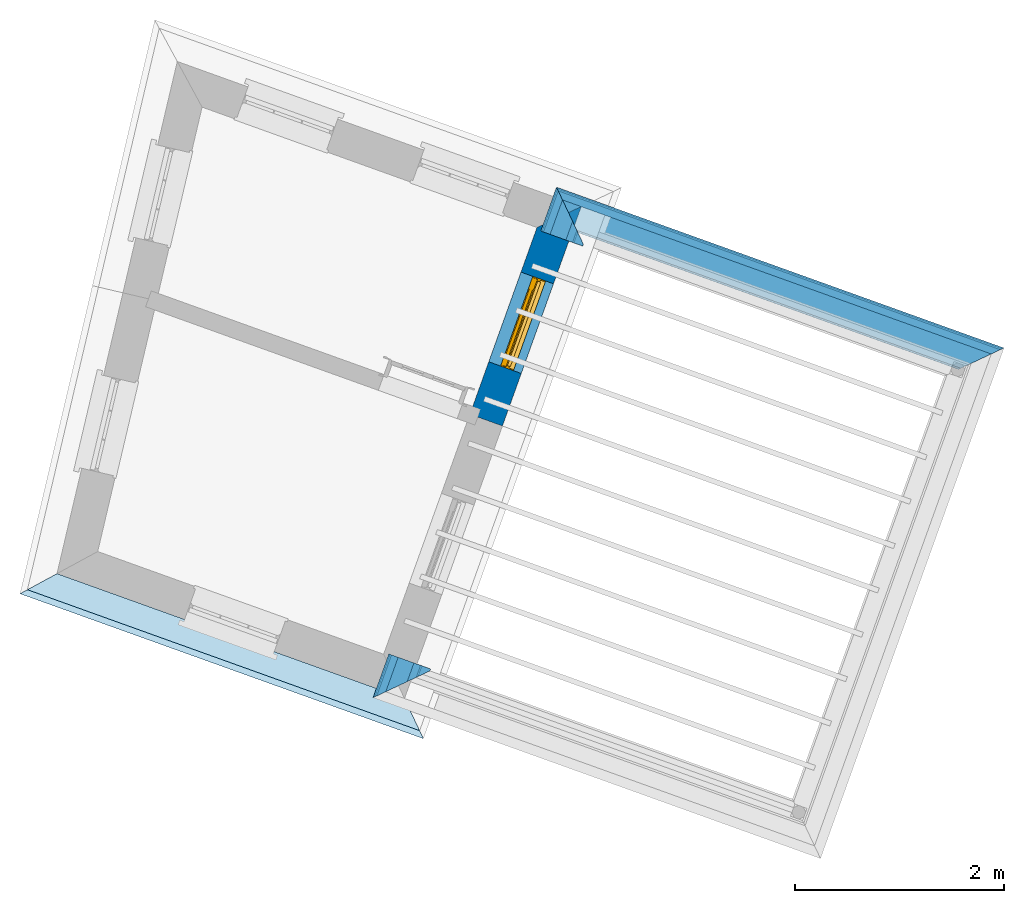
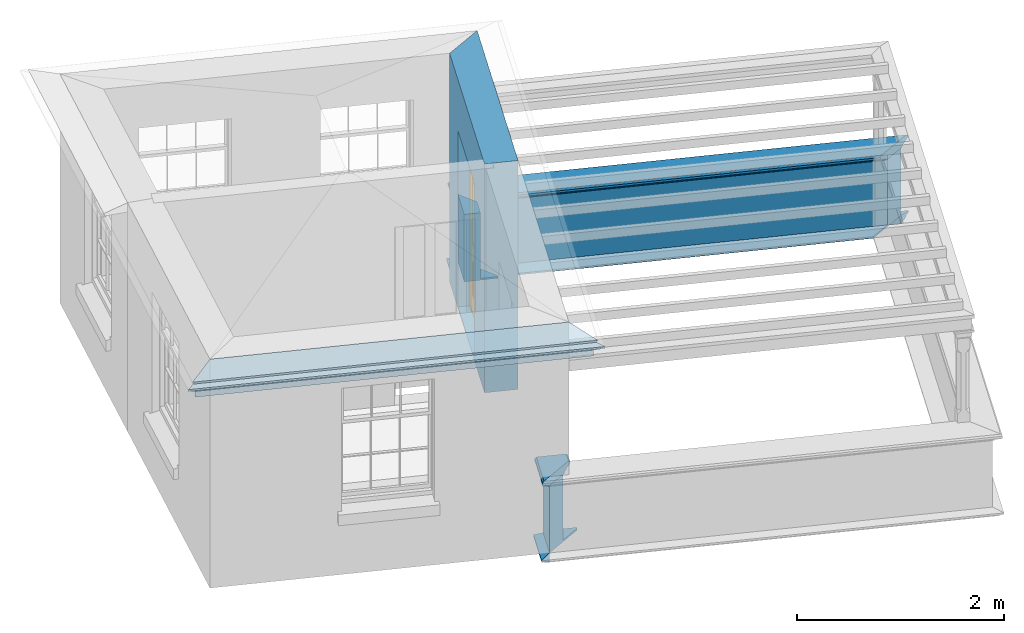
# One storey, part 4 of 5: 10 walls, 2 roofs, 1 door, 1 opening.
"""IFC4 building model written with IfcOpenShell, lengths in metres."""

from ifc_helpers import new_model, si_unit, frame, origin, origin_with_axes, place, context, subcontext, project, spatial, polyline, outline, extrude, clip, halfspace, faceted_brep, source, transform, mapped, material, layer, layer_set, layer_usage, material_profile, profile_set, profile_usage, type_object, type_shapes, element, fill, save


model = new_model("IFC4")

# Units and contexts
model_context = context("Model", 3, world=origin_with_axes())
body_context = subcontext(model_context, "Body", "Model", "MODEL_VIEW")
ifc_project = project(units=[si_unit("PLANEANGLEUNIT", "RADIAN"), si_unit("MASSUNIT", "GRAM", prefix="KILO"), si_unit("FORCEUNIT", "NEWTON", prefix="KILO"), si_unit("LENGTHUNIT", "METRE"), si_unit("AREAUNIT", "SQUARE_METRE"), si_unit("VOLUMEUNIT", "CUBIC_METRE")], contexts=[model_context, model_context])

# Sites, building, storey
site_1_placement = place(None, origin_with_axes())
site_1 = spatial("IfcSite", under=ifc_project, at=site_1_placement, Name="Tamar")
site_2_placement = place(site_1_placement, origin_with_axes())
site_2 = spatial("IfcSite", under=site_1, at=site_2_placement, Name="Site plot-22", CompositionType="ELEMENT")
building_placement = place(None, origin_with_axes())
building = spatial("IfcBuilding", under=site_2, at=building_placement, Name="Building plot-22", CompositionType="ELEMENT")
storey_placement = place(None, frame((0.0, 0.0, 30.5), z_axis=(0.0, 0.0, 1.0), x_axis=(1.0, 0.0, 0.0)))
storey = spatial("IfcBuildingStorey", under=building, at=storey_placement, Name="plot-22 2", CompositionType="ELEMENT", Elevation=30.5)

# Wall, opening, door
ifc_material = material(Name="Masonry")
ifc_layer = layer(ifc_material, 0.33, ventilated=False)
ifc_layer_set = layer_set([ifc_layer], Name="exterior_0.08_0.25")
ifc_layer_usage = layer_usage(ifc_layer_set, "AXIS2", "POSITIVE", -0.25)
wall_type_1 = type_object("IfcWallType", Name="exterior_0.08_0.25", PredefinedType="SOLIDWALL", material=ifc_layer_set)
wall_1_placement = place(storey_placement, frame((253.76162339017, 273.164921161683, 0.0), z_axis=(0.0, 0.0, 1.0), x_axis=(0.338164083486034, 0.941087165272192, 0.0)))
wall_1 = element("IfcWall", 1, at=wall_1_placement, inside=storey, type_object=wall_type_1, material=ifc_layer_usage, Name="exterior", context=body_context, shape_type="SweptSolid", body=[
    extrude(outline(polyline([(-4.38270280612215e-15, 0.0800000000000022), (2.10540344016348e-14, -0.249999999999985), (2.22537913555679, -0.249999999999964), (1.89537913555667, 0.0800000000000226), (-4.38270280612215e-15, 0.0800000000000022)])), origin_with_axes(), (0.0, 0.0, 1.0), 2.7),
])
opening_placement = place(wall_1_placement, frame((0.532689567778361, 0.0, 0.0199999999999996)))
opening = element("IfcOpeningElement", 2, at=opening_placement, cuts=wall_1, Name="My Opening", ObjectType="Opening", context=body_context, shape_type="SweptSolid", body=[
    extrude(outline(polyline([(0.0, -0.269999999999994), (0.910000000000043, -0.269999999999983), (0.910000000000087, 1.10000000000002), (4.41868763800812e-14, 1.10000000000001), (0.0, -0.269999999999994)])), origin_with_axes(), (0.0, 0.0, 1.0), 2.08),
])
door_type = type_object("IfcDoorType", Name="door_panelled", OperationType="SINGLE_SWING_LEFT", PredefinedType="NOTDEFINED")
shared_shape = source(origin(), body_context, "Body", "Brep", [
    faceted_brep([(0.545, 0.195, 0.265), (0.745, 0.195, 0.265), (0.745, 0.2, 0.265), (0.545, 0.2, 0.265), (0.745, 0.2, 0.58), (0.545, 0.2, 0.58), (0.545, 0.195, 0.58), (0.515, 0.19, 0.235), (0.775, 0.19, 0.235), (0.745, 0.195, 0.58), (0.515, 0.19, 0.61), (0.515, 0.185, 0.235), (0.775, 0.185, 0.235), (0.775, 0.19, 0.61), (0.515, 0.185, 0.61), (0.785, 0.185, 0.225), (0.505, 0.185, 0.225), (0.775, 0.185, 0.61), (0.505, 0.185, 0.62), (0.785, 0.185, 0.62), (0.505, 0.18, 0.225), (0.785, 0.18, 0.225), (0.505, 0.18, 0.62), (0.785, 0.18, 0.62), (0.883, 0.18, 0.075), (0.898, 0.18, 0.075), (0.405, 0.18, 0.62), (0.405, 0.18, 0.225), (0.027, 0.18, 0.075), (0.785, 0.18, 0.82), (0.125, 0.18, 0.82), (0.405, 0.185, 0.62), (0.405, 0.185, 0.225), (0.898, 0.18, 2.068), (0.027, 0.17, 0.075), (0.883, 0.17, 0.075), (0.125, 0.18, 0.225), (0.012, 0.18, 0.075), (0.785, 0.19, 0.82), (0.125, 0.19, 0.82), (0.125, 0.18, 0.62), (0.125, 0.185, 0.62), (0.395, 0.185, 0.61), (0.395, 0.185, 0.235), (0.125, 0.185, 0.225), (0.785, 0.18, 1.895), (0.027, 0.14, 0.045), (0.883, 0.14, 0.045), (0.558333, 0.19, 0.83), (0.351667, 0.19, 0.83), (0.125, 0.18, 1.895), (0.125, 0.19, 1.895), (0.785, 0.19, 1.895), (0.012, 0.18, 2.068), (0.135, 0.185, 0.61), (0.395, 0.19, 0.61), (0.395, 0.19, 0.235), (0.135, 0.185, 0.235), (0.027, 0.14, 0.027), (0.883, 0.14, 0.027), (0.568333, 0.19, 0.83), (0.558333, 0.22, 0.83), (0.351667, 0.22, 0.83), (0.341667, 0.19, 0.83), (0.135, 0.19, 1.185), (0.135, 0.19, 1.53), (0.775, 0.19, 1.53), (0.775, 0.19, 1.185), (0.135, 0.19, 0.61), (0.365, 0.195, 0.58), (0.365, 0.195, 0.265), (0.135, 0.19, 0.235), (0.568333, 0.19, 1.175), (0.558333, 0.19, 1.175), (0.775, 0.19, 0.83), (0.558333, 0.22, 1.175), (0.785, 0.22, 0.82), (0.125, 0.22, 0.82), (0.351667, 0.22, 1.175), (0.351667, 0.19, 1.175), (0.341667, 0.19, 1.175), (0.135, 0.19, 0.83), (0.135, 0.19, 1.175), (0.135, 0.22, 1.185), (0.135, 0.22, 1.53), (0.135, 0.19, 1.54), (0.351667, 0.19, 1.885), (0.558333, 0.19, 1.885), (0.775, 0.22, 1.53), (0.775, 0.22, 1.185), (0.775, 0.19, 1.175), (0.775, 0.19, 1.54), (0.165, 0.195, 0.58), (0.365, 0.2, 0.58), (0.365, 0.2, 0.265), (0.165, 0.195, 0.265), (0.568333, 0.22, 0.83), (0.568333, 0.22, 1.175), (0.568333, 0.19, 1.185), (0.558333, 0.19, 1.185), (0.775, 0.22, 0.83), (0.785, 0.23, 0.82), (0.125, 0.23, 0.82), (0.341667, 0.22, 0.83), (0.341667, 0.22, 1.175), (0.351667, 0.19, 1.185), (0.341667, 0.19, 1.185), (0.135, 0.22, 0.83), (0.341667, 0.22, 1.185), (0.125, 0.22, 1.895), (0.341667, 0.22, 1.53), (0.341667, 0.19, 1.53), (0.135, 0.19, 1.885), (0.341667, 0.19, 1.54), (0.341667, 0.19, 1.885), (0.558333, 0.22, 1.885), (0.351667, 0.22, 1.885), (0.568333, 0.19, 1.885), (0.785, 0.22, 1.895), (0.568333, 0.22, 1.185), (0.568333, 0.19, 1.53), (0.568333, 0.22, 1.53), (0.568333, 0.19, 1.54), (0.775, 0.19, 1.885), (0.165, 0.2, 0.58), (0.165, 0.2, 0.265), (0.775, 0.22, 1.175), (0.558333, 0.19, 1.53), (0.351667, 0.22, 1.185), (0.558333, 0.22, 1.185), (0.505, 0.23, 0.62), (0.405, 0.23, 0.62), (0.125, 0.23, 1.895), (0.785, 0.23, 1.895), (0.351667, 0.19, 1.53), (0.135, 0.22, 1.175), (0.135, 0.22, 1.54), (0.341667, 0.22, 1.54), (0.135, 0.22, 1.885), (0.351667, 0.19, 1.54), (0.558333, 0.22, 1.54), (0.558333, 0.19, 1.54), (0.351667, 0.22, 1.54), (0.775, 0.22, 1.54), (0.568333, 0.22, 1.54), (0.775, 0.22, 1.885), (0.558333, 0.22, 1.53), (0.405, 0.23, 0.225), (0.505, 0.23, 0.225), (0.125, 0.23, 0.62), (0.785, 0.23, 0.62), (0.012, 0.23, 2.068), (0.898, 0.23, 2.068), (0.351667, 0.22, 1.53), (0.341667, 0.22, 1.885), (0.568333, 0.22, 1.885), (0.405, 0.225, 0.225), (0.405, 0.225, 0.62), (0.505, 0.225, 0.62), (0.505, 0.225, 0.225), (0.898, 0.23, 0.027), (0.012, 0.23, 0.027), (0.125, 0.225, 0.62), (0.785, 0.225, 0.62), (0.395, 0.225, 0.235), (0.395, 0.225, 0.61), (0.125, 0.23, 0.225), (0.125, 0.225, 0.225), (0.515, 0.225, 0.61), (0.515, 0.225, 0.235), (0.785, 0.23, 0.225), (0.785, 0.225, 0.225), (0.135, 0.225, 0.61), (0.775, 0.225, 0.61), (0.135, 0.225, 0.235), (0.395, 0.22, 0.235), (0.395, 0.22, 0.61), (0.515, 0.22, 0.61), (0.515, 0.22, 0.235), (0.775, 0.225, 0.235), (0.135, 0.22, 0.61), (0.775, 0.22, 0.61), (0.135, 0.22, 0.235), (0.365, 0.215, 0.265), (0.365, 0.215, 0.58), (0.545, 0.215, 0.58), (0.545, 0.215, 0.265), (0.775, 0.22, 0.235), (0.165, 0.215, 0.58), (0.745, 0.215, 0.58), (0.165, 0.215, 0.265), (0.365, 0.21, 0.58), (0.365, 0.21, 0.265), (0.545, 0.21, 0.58), (0.545, 0.21, 0.265), (0.745, 0.215, 0.265), (0.165, 0.21, 0.58), (0.745, 0.21, 0.58), (0.165, 0.21, 0.265), (0.745, 0.21, 0.265), (0.885, 0.178, 0.025), (0.025, 0.178, 0.025), (0.025, 0.15, 0.025), (0.885, 0.15, 0.025), (0.9, 0.23, 0.025), (0.01, 0.23, 0.025), (0.9, 0.178, 0.025), (0.91, 0.23, 0.0), (0.0, 0.23, 0.0), (0.01, 0.178, 0.025), (0.9, 0.178, 2.07), (0.9, 0.23, 2.07), (0.885, 0.178, 2.055), (0.91, 0.23, 2.08), (0.01, 0.23, 2.07), (0.0, 0.23, 2.08), (0.01, 0.178, 2.07), (0.025, 0.178, 2.055), (0.0, 0.1, 2.08), (0.91, 0.1, 2.08), (0.01, 0.1, 2.07), (0.9, 0.1, 2.07), (0.01, 0.15, 2.07), (0.9, 0.15, 2.07), (0.0, 0.1, 0.0), (0.91, 0.1, 0.0), (0.01, 0.1, 0.025), (0.9, 0.1, 0.025), (0.01, 0.15, 0.025), (0.025, 0.15, 2.055), (0.9, 0.15, 0.025), (0.885, 0.15, 2.055), (0.898, 0.18, 0.027), (0.012, 0.18, 0.027), (0.883, 0.18, 0.027), (0.027, 0.18, 0.027)], [[[0, 1, 2, 3]], [[2, 4, 5, 3]], [[0, 3, 5, 6]], [[1, 0, 7, 8]], [[9, 4, 2, 1]], [[9, 6, 5, 4]], [[0, 6, 10, 7]], [[8, 7, 11, 12]], [[8, 13, 9, 1]], [[13, 10, 6, 9]], [[7, 10, 14, 11]], [[15, 12, 11, 16]], [[12, 17, 13, 8]], [[17, 14, 10, 13]], [[18, 16, 11, 14]], [[15, 19, 17, 12]], [[15, 16, 20, 21]], [[14, 17, 19, 18]], [[16, 18, 22, 20]], [[21, 23, 19, 15]], [[24, 25, 21, 20]], [[23, 22, 18, 19]], [[20, 22, 26, 27]], [[23, 21, 25]], [[28, 24, 20, 27]], [[22, 23, 29]], [[29, 30, 26, 22]], [[27, 26, 31, 32]], [[23, 25, 33, 29]], [[34, 35, 24, 28]], [[28, 27, 36, 37]], [[38, 39, 30, 29]], [[26, 30, 40]], [[26, 40, 41, 31]], [[42, 43, 32, 31]], [[32, 44, 36, 27]], [[33, 45, 29]], [[46, 47, 35, 34]], [[36, 40, 37]], [[39, 38, 48, 49]], [[50, 30, 39, 51]], [[29, 45, 52, 38]], [[53, 37, 40, 30]], [[44, 41, 40, 36]], [[31, 41, 54, 42]], [[43, 42, 55, 56]], [[57, 44, 32, 43]], [[50, 45, 33, 53]], [[47, 46, 58, 59]], [[60, 48, 38]], [[49, 48, 61, 62]], [[49, 63, 39]], [[50, 53, 30]], [[51, 39, 64, 65]], [[45, 50, 51, 52]], [[66, 67, 38, 52]], [[57, 54, 41, 44]], [[42, 54, 68, 55]], [[56, 55, 69, 70]], [[56, 71, 57, 43]], [[60, 72, 73, 48]], [[60, 38, 74]], [[48, 73, 75, 61]], [[76, 77, 62, 61]], [[62, 78, 79, 49]], [[49, 79, 80, 63]], [[63, 81, 39]], [[82, 64, 39]], [[65, 64, 83, 84]], [[85, 51, 65]], [[52, 51, 86, 87]], [[88, 89, 67, 66]], [[90, 38, 67]], [[91, 66, 52]], [[71, 68, 54, 57]], [[55, 68, 92, 69]], [[69, 93, 94, 70]], [[70, 95, 71, 56]], [[96, 97, 72, 60]], [[73, 72, 98, 99]], [[74, 38, 90]], [[100, 96, 60, 74]], [[75, 73, 79, 78]], [[61, 75, 97, 96]], [[101, 102, 77, 76]], [[77, 103, 62]], [[96, 76, 61]], [[103, 104, 78, 62]], [[80, 79, 105, 106]], [[63, 80, 104, 103]], [[81, 63, 103, 107]], [[81, 82, 39]], [[106, 64, 82, 80]], [[106, 108, 83, 64]], [[84, 83, 77, 109]], [[110, 111, 65, 84]], [[112, 51, 85]], [[113, 85, 65, 111]], [[114, 86, 51]], [[115, 87, 86, 116]], [[117, 52, 87]], [[118, 76, 89, 88]], [[119, 98, 67, 89]], [[120, 121, 88, 66]], [[67, 98, 72, 90]], [[91, 122, 120, 66]], [[91, 52, 123]], [[95, 92, 68, 71]], [[69, 92, 124, 93]], [[94, 93, 124, 125]], [[94, 125, 95, 70]], [[72, 97, 126, 90]], [[127, 99, 98, 120]], [[99, 105, 79, 73]], [[74, 90, 126, 100]], [[96, 100, 76]], [[128, 129, 75, 78]], [[97, 75, 129, 119]], [[130, 131, 102, 101]], [[109, 77, 102, 132]], [[133, 101, 76, 118]], [[77, 107, 103]], [[78, 104, 108, 128]], [[111, 106, 105, 134]], [[104, 80, 82, 135]], [[107, 135, 82, 81]], [[110, 108, 106, 111]], [[104, 135, 83, 108]], [[83, 135, 77]], [[136, 84, 109]], [[110, 84, 136, 137]], [[114, 51, 112]], [[85, 136, 138, 112]], [[113, 137, 136, 85]], [[111, 134, 139, 113]], [[86, 114, 113, 139]], [[140, 141, 87, 115]], [[139, 142, 116, 86]], [[109, 118, 115, 116]], [[117, 123, 52]], [[117, 87, 141, 122]], [[126, 89, 76]], [[143, 118, 88]], [[120, 98, 119, 121]], [[119, 89, 126, 97]], [[144, 143, 88, 121]], [[144, 122, 91, 143]], [[127, 120, 122, 141]], [[143, 91, 123, 145]], [[124, 92, 95, 125]], [[146, 129, 99, 127]], [[99, 129, 128, 105]], [[100, 126, 76]], [[121, 119, 129, 146]], [[147, 131, 130, 148]], [[131, 149, 102]], [[130, 101, 150]], [[102, 151, 132]], [[118, 109, 132, 133]], [[101, 133, 152]], [[107, 77, 135]], [[153, 128, 108, 110]], [[134, 105, 128, 153]], [[109, 138, 136]], [[153, 110, 137, 142]], [[154, 114, 112, 138]], [[137, 113, 114, 154]], [[141, 139, 134, 127]], [[141, 140, 142, 139]], [[144, 140, 115, 155]], [[142, 137, 154, 116]], [[155, 115, 118]], [[116, 154, 109]], [[117, 155, 145, 123]], [[122, 144, 155, 117]], [[143, 145, 118]], [[121, 146, 140, 144]], [[146, 127, 134, 153]], [[156, 157, 131, 147]], [[148, 130, 158, 159]], [[148, 160, 161, 147]], [[157, 162, 149, 131]], [[161, 151, 102, 149]], [[101, 152, 160, 150]], [[163, 158, 130, 150]], [[151, 152, 133, 132]], [[154, 138, 109]], [[142, 140, 146, 153]], [[145, 155, 118]], [[157, 156, 164, 165]], [[147, 166, 167, 156]], [[168, 169, 159, 158]], [[170, 148, 159, 171]], [[148, 170, 160]], [[166, 147, 161]], [[172, 162, 157, 165]], [[166, 149, 162, 167]], [[166, 161, 149]], [[150, 160, 170]], [[163, 173, 168, 158]], [[171, 163, 150, 170]], [[174, 164, 156, 167]], [[175, 176, 165, 164]], [[169, 168, 177, 178]], [[171, 159, 169, 179]], [[167, 162, 172, 174]], [[176, 180, 172, 165]], [[179, 173, 163, 171]], [[181, 177, 168, 173]], [[164, 174, 182, 175]], [[183, 184, 176, 175]], [[178, 177, 185, 186]], [[179, 169, 178, 187]], [[174, 172, 180, 182]], [[184, 188, 180, 176]], [[187, 181, 173, 179]], [[189, 185, 177, 181]], [[175, 182, 190, 183]], [[191, 184, 183, 192]], [[185, 193, 194, 186]], [[187, 178, 186, 195]], [[182, 180, 188, 190]], [[191, 196, 188, 184]], [[195, 189, 181, 187]], [[197, 193, 185, 189]], [[183, 190, 198, 192]], [[198, 196, 191, 192]], [[194, 193, 197, 199]], [[195, 186, 194, 199]], [[188, 196, 198, 190]], [[197, 189, 195, 199]], [[200, 201, 202, 203]], [[201, 200, 204, 205]], [[206, 204, 200]], [[204, 207, 208, 205]], [[209, 201, 205]], [[210, 211, 204, 206]], [[206, 200, 212, 210]], [[211, 213, 207, 204]], [[214, 205, 208, 215]], [[216, 217, 201, 209]], [[205, 214, 216, 209]], [[216, 214, 211, 210]], [[210, 212, 217, 216]], [[214, 215, 213, 211]], [[218, 219, 213, 215]], [[219, 218, 220, 221]], [[221, 220, 222, 223]], [[215, 208, 224, 218]], [[225, 224, 208, 207]], [[224, 226, 220, 218]], [[224, 225, 227, 226]], [[219, 225, 207, 213]], [[228, 222, 220, 226]], [[219, 221, 227, 225]], [[226, 227, 203, 202]], [[202, 229, 222, 228]], [[228, 226, 202]], [[227, 221, 223, 230]], [[230, 203, 227]], [[217, 229, 202, 201]], [[231, 223, 222, 229]], [[230, 223, 231, 203]], [[231, 229, 217, 212]], [[212, 200, 203, 231]], [[33, 152, 151, 53]], [[25, 160, 152, 33]], [[161, 37, 53, 151]], [[232, 160, 25]], [[161, 233, 37]], [[160, 232, 234]], [[24, 234, 232, 25]], [[233, 161, 235]], [[37, 233, 235, 28]], [[161, 160, 234, 235]], [[35, 47, 234, 24]], [[28, 235, 46, 34]], [[58, 235, 234, 59]], [[59, 234, 47]], [[58, 46, 235]]]),
])
type_shapes(door_type, [shared_shape])
door_placement = place(storey_placement, frame((254.195853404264, 273.574924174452, 0.0199999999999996), z_axis=(0.0, 0.0, 1.0), x_axis=(0.307729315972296, 0.856389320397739, 0.0)))
door = element("IfcDoor", 3, at=door_placement, inside=storey, type_object=door_type, Name="circulation outside door", OverallHeight=2.08, OverallWidth=0.91, context=body_context, shape_type="MappedRepresentation", body=[
    mapped(shared_shape, transform((0.0, 0.0, 0.0), scale=1.0)),
])
fill(opening, door)

# Walls
ifc_material_profile_1 = material_profile(None, outline(polyline([(0.25, 0.0), (0.25, 0.795), (0.09, 0.795), (0.09, 0.02), (-0.08, 0.02), (-0.08, 0.0), (0.25, 0.0)])))
ifc_profile_set_1 = profile_set([ifc_material_profile_1])
ifc_profile_usage_1 = profile_usage(ifc_profile_set_1)
wall_type_2 = type_object("IfcWallType", Name="parapet_0", PredefinedType="PARAPET", material=ifc_profile_set_1)
wall_2_placement = place(storey_placement, frame((252.864957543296, 269.752847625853, 0.0), z_axis=(0.338164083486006, 0.941087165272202, 0.0), x_axis=(-0.941087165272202, 0.338164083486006, 0.0)))
element("IfcWall", 4, at=wall_2_placement, inside=storey, type_object=wall_type_2, material=ifc_profile_usage_1, Name="parapet_0", context=body_context, shape_type="Clipping", body=[
    clip(clip(extrude(outline(polyline([(0.25, 0.0), (0.25, 0.795), (0.09, 0.795), (0.09, 0.02), (-0.08, 0.02), (-0.08, 0.0), (0.25, 0.0)])), origin_with_axes(), (0.0, 0.0, 1.0), 2.1), halfspace(frame((0.0, 0.0, 1.1), z_axis=(-9.83119495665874e-15, 0.0, -1.0), x_axis=(0.0, 1.0, 0.0)), True)), halfspace(frame((0.0, 0.0, 1.0), z_axis=(-0.707106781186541, 0.0, -0.707106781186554), x_axis=(0.0, 1.0, 0.0)), False)),
])
ifc_profile_usage_2 = profile_usage(ifc_profile_set_1)
wall_3_placement = place(storey_placement, frame((253.780275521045, 275.257258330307, 0.0), z_axis=(0.941087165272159, -0.338164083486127, 0.0), x_axis=(0.338164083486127, 0.941087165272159, 0.0)))
element("IfcWall", 5, at=wall_3_placement, inside=storey, type_object=wall_type_2, material=ifc_profile_usage_2, Name="parapet_0", context=body_context, shape_type="Clipping", body=[
    clip(clip(extrude(outline(polyline([(0.25, 0.0), (0.25, 0.795), (0.09, 0.795), (0.09, 0.02), (-0.08, 0.02), (-0.08, 0.0), (0.25, 0.0)])), origin_with_axes(), (0.0, 0.0, 1.0), 5.84963962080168), halfspace(frame((0.0, 0.0, 4.84963962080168), z_axis=(0.707106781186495, 0.0, -0.7071067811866), x_axis=(0.0, 1.0, 0.0)), True)), halfspace(frame((0.0, 0.0, 1.0), z_axis=(-0.707106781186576, 0.0, -0.707106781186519), x_axis=(0.0, 1.0, 0.0)), False)),
])
ifc_profile_usage_3 = profile_usage(ifc_profile_set_1)
wall_4_placement = place(storey_placement, frame((254.349382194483, 273.883898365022, 0.0), z_axis=(0.338164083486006, 0.941087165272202, 0.0), x_axis=(-0.941087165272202, 0.338164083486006, 0.0)))
element("IfcWall", 6, at=wall_4_placement, inside=storey, type_object=wall_type_2, material=ifc_profile_usage_3, Name="parapet_0", context=body_context, shape_type="Clipping", body=[
    clip(clip(extrude(outline(polyline([(0.25, 0.0), (0.25, 0.795), (0.09, 0.795), (0.09, 0.02), (-0.08, 0.02), (-0.08, 0.0), (0.25, 0.0)])), origin_with_axes(), (0.0, 0.0, 1.0), 2.1), halfspace(frame((0.0, 0.0, 1.1), z_axis=(0.70710678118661, 0.0, -0.707106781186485), x_axis=(0.0, 1.0, 0.0)), True)), halfspace(frame((0.0, 0.0, 1.0), z_axis=(-9.83119495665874e-15, 0.0, -1.0), x_axis=(0.0, 1.0, 0.0)), False)),
])
ifc_material_profile_2 = material_profile(None, outline(polyline([(0.265, 0.795), (0.268, 0.807), (0.274, 0.816), (0.283, 0.822), (0.295, 0.825), (0.295, 0.84), (0.305, 0.84), (0.317, 0.842), (0.326, 0.849), (0.333, 0.858), (0.335, 0.87), (0.333, 0.882), (0.326, 0.891), (0.317, 0.898), (0.305, 0.9), (0.035, 0.9), (0.023, 0.898), (0.014, 0.891), (0.007, 0.882), (0.005, 0.87), (0.007, 0.858), (0.014, 0.849), (0.023, 0.842), (0.035, 0.84), (0.045, 0.84), (0.045, 0.825), (0.057, 0.822), (0.066, 0.816), (0.072, 0.807), (0.075, 0.795), (0.265, 0.795)])))
ifc_profile_set_2 = profile_set([ifc_material_profile_2])
ifc_profile_usage_4 = profile_usage(ifc_profile_set_2)
wall_type_3 = type_object("IfcWallType", Name="parapet_1", PredefinedType="PARAPET", material=ifc_profile_set_2)
wall_5_placement = place(storey_placement, frame((252.864957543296, 269.752847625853, 0.0), z_axis=(0.338164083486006, 0.941087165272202, 0.0), x_axis=(-0.941087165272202, 0.338164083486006, 0.0)))
element("IfcWall", 7, at=wall_5_placement, inside=storey, type_object=wall_type_3, material=ifc_profile_usage_4, Name="parapet_1", context=body_context, shape_type="Clipping", body=[
    clip(clip(extrude(outline(polyline([(0.265, 0.795), (0.268, 0.807), (0.274, 0.816), (0.283, 0.822), (0.295, 0.825), (0.295, 0.84), (0.305, 0.84), (0.317, 0.842), (0.326, 0.849), (0.333, 0.858), (0.335, 0.87), (0.333, 0.882), (0.326, 0.891), (0.317, 0.898), (0.305, 0.9), (0.035, 0.9), (0.023, 0.898), (0.014, 0.891), (0.007, 0.882), (0.005, 0.87), (0.007, 0.858), (0.014, 0.849), (0.023, 0.842), (0.035, 0.84), (0.045, 0.84), (0.045, 0.825), (0.057, 0.822), (0.066, 0.816), (0.072, 0.807), (0.075, 0.795), (0.265, 0.795)])), origin_with_axes(), (0.0, 0.0, 1.0), 2.1), halfspace(frame((0.0, 0.0, 1.1), z_axis=(-9.83119495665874e-15, 0.0, -1.0), x_axis=(0.0, 1.0, 0.0)), True)), halfspace(frame((0.0, 0.0, 1.0), z_axis=(-0.707106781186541, 0.0, -0.707106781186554), x_axis=(0.0, 1.0, 0.0)), False)),
])
ifc_profile_usage_5 = profile_usage(ifc_profile_set_2)
wall_6_placement = place(storey_placement, frame((253.780275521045, 275.257258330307, 0.0), z_axis=(0.941087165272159, -0.338164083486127, 0.0), x_axis=(0.338164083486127, 0.941087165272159, 0.0)))
element("IfcWall", 8, at=wall_6_placement, inside=storey, type_object=wall_type_3, material=ifc_profile_usage_5, Name="parapet_1", context=body_context, shape_type="Clipping", body=[
    clip(clip(extrude(outline(polyline([(0.265, 0.795), (0.268, 0.807), (0.274, 0.816), (0.283, 0.822), (0.295, 0.825), (0.295, 0.84), (0.305, 0.84), (0.317, 0.842), (0.326, 0.849), (0.333, 0.858), (0.335, 0.87), (0.333, 0.882), (0.326, 0.891), (0.317, 0.898), (0.305, 0.9), (0.035, 0.9), (0.023, 0.898), (0.014, 0.891), (0.007, 0.882), (0.005, 0.87), (0.007, 0.858), (0.014, 0.849), (0.023, 0.842), (0.035, 0.84), (0.045, 0.84), (0.045, 0.825), (0.057, 0.822), (0.066, 0.816), (0.072, 0.807), (0.075, 0.795), (0.265, 0.795)])), origin_with_axes(), (0.0, 0.0, 1.0), 5.84963962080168), halfspace(frame((0.0, 0.0, 4.84963962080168), z_axis=(0.707106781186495, 0.0, -0.7071067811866), x_axis=(0.0, 1.0, 0.0)), True)), halfspace(frame((0.0, 0.0, 1.0), z_axis=(-0.707106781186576, 0.0, -0.707106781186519), x_axis=(0.0, 1.0, 0.0)), False)),
])
ifc_profile_usage_6 = profile_usage(ifc_profile_set_2)
wall_7_placement = place(storey_placement, frame((254.349382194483, 273.883898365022, 0.0), z_axis=(0.338164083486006, 0.941087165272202, 0.0), x_axis=(-0.941087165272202, 0.338164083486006, 0.0)))
element("IfcWall", 9, at=wall_7_placement, inside=storey, type_object=wall_type_3, material=ifc_profile_usage_6, Name="parapet_1", context=body_context, shape_type="Clipping", body=[
    clip(clip(extrude(outline(polyline([(0.265, 0.795), (0.268, 0.807), (0.274, 0.816), (0.283, 0.822), (0.295, 0.825), (0.295, 0.84), (0.305, 0.84), (0.317, 0.842), (0.326, 0.849), (0.333, 0.858), (0.335, 0.87), (0.333, 0.882), (0.326, 0.891), (0.317, 0.898), (0.305, 0.9), (0.035, 0.9), (0.023, 0.898), (0.014, 0.891), (0.007, 0.882), (0.005, 0.87), (0.007, 0.858), (0.014, 0.849), (0.023, 0.842), (0.035, 0.84), (0.045, 0.84), (0.045, 0.825), (0.057, 0.822), (0.066, 0.816), (0.072, 0.807), (0.075, 0.795), (0.265, 0.795)])), origin_with_axes(), (0.0, 0.0, 1.0), 2.1), halfspace(frame((0.0, 0.0, 1.1), z_axis=(0.70710678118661, 0.0, -0.707106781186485), x_axis=(0.0, 1.0, 0.0)), True)), halfspace(frame((0.0, 0.0, 1.0), z_axis=(-9.83119495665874e-15, 0.0, -1.0), x_axis=(0.0, 1.0, 0.0)), False)),
])
ifc_material_profile_3 = material_profile(None, outline(polyline([(0.25, -0.1), (0.265, -0.1), (0.265, -0.085), (0.278, -0.084), (0.289, -0.081), (0.301, -0.074), (0.309, -0.065), (0.315, -0.055), (0.324, -0.044), (0.334, -0.038), (0.345, -0.035), (0.345, -0.015), (0.25, 0.0), (0.25, -0.1)])))
ifc_profile_set_3 = profile_set([ifc_material_profile_3])
ifc_profile_usage_7 = profile_usage(ifc_profile_set_3)
wall_type_4 = type_object("IfcWallType", Name="parapet_2", PredefinedType="PARAPET", material=ifc_profile_set_3)
wall_8_placement = place(storey_placement, frame((252.864957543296, 269.752847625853, 0.0), z_axis=(0.338164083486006, 0.941087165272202, 0.0), x_axis=(-0.941087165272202, 0.338164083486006, 0.0)))
element("IfcWall", 10, at=wall_8_placement, inside=storey, type_object=wall_type_4, material=ifc_profile_usage_7, Name="parapet_2", context=body_context, shape_type="Clipping", body=[
    clip(clip(extrude(outline(polyline([(0.25, -0.1), (0.265, -0.1), (0.265, -0.085), (0.278, -0.084), (0.289, -0.081), (0.301, -0.074), (0.309, -0.065), (0.315, -0.055), (0.324, -0.044), (0.334, -0.038), (0.345, -0.035), (0.345, -0.015), (0.25, 0.0), (0.25, -0.1)])), origin_with_axes(), (0.0, 0.0, 1.0), 2.1), halfspace(frame((0.0, 0.0, 1.1), z_axis=(-9.83119495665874e-15, 0.0, -1.0), x_axis=(0.0, 1.0, 0.0)), True)), halfspace(frame((0.0, 0.0, 1.0), z_axis=(-0.707106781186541, 0.0, -0.707106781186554), x_axis=(0.0, 1.0, 0.0)), False)),
])
ifc_profile_usage_8 = profile_usage(ifc_profile_set_3)
wall_9_placement = place(storey_placement, frame((253.780275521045, 275.257258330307, 0.0), z_axis=(0.941087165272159, -0.338164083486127, 0.0), x_axis=(0.338164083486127, 0.941087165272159, 0.0)))
element("IfcWall", 11, at=wall_9_placement, inside=storey, type_object=wall_type_4, material=ifc_profile_usage_8, Name="parapet_2", context=body_context, shape_type="Clipping", body=[
    clip(clip(extrude(outline(polyline([(0.25, -0.1), (0.265, -0.1), (0.265, -0.085), (0.278, -0.084), (0.289, -0.081), (0.301, -0.074), (0.309, -0.065), (0.315, -0.055), (0.324, -0.044), (0.334, -0.038), (0.345, -0.035), (0.345, -0.015), (0.25, 0.0), (0.25, -0.1)])), origin_with_axes(), (0.0, 0.0, 1.0), 5.84963962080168), halfspace(frame((0.0, 0.0, 4.84963962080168), z_axis=(0.707106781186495, 0.0, -0.7071067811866), x_axis=(0.0, 1.0, 0.0)), True)), halfspace(frame((0.0, 0.0, 1.0), z_axis=(-0.707106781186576, 0.0, -0.707106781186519), x_axis=(0.0, 1.0, 0.0)), False)),
])
ifc_profile_usage_9 = profile_usage(ifc_profile_set_3)
wall_10_placement = place(storey_placement, frame((254.349382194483, 273.883898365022, 0.0), z_axis=(0.338164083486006, 0.941087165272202, 0.0), x_axis=(-0.941087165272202, 0.338164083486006, 0.0)))
element("IfcWall", 12, at=wall_10_placement, inside=storey, type_object=wall_type_4, material=ifc_profile_usage_9, Name="parapet_2", context=body_context, shape_type="Clipping", body=[
    clip(clip(extrude(outline(polyline([(0.25, -0.1), (0.265, -0.1), (0.265, -0.085), (0.278, -0.084), (0.289, -0.081), (0.301, -0.074), (0.309, -0.065), (0.315, -0.055), (0.324, -0.044), (0.334, -0.038), (0.345, -0.035), (0.345, -0.015), (0.25, 0.0), (0.25, -0.1)])), origin_with_axes(), (0.0, 0.0, 1.0), 2.1), halfspace(frame((0.0, 0.0, 1.1), z_axis=(0.70710678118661, 0.0, -0.707106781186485), x_axis=(0.0, 1.0, 0.0)), True)), halfspace(frame((0.0, 0.0, 1.0), z_axis=(-9.83119495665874e-15, 0.0, -1.0), x_axis=(0.0, 1.0, 0.0)), False)),
])

# Roofs
ifc_material_profile_4 = material_profile(None, outline(polyline([(0.25, -0.11), (0.25, -0.33), (0.265, -0.33), (0.268, -0.318), (0.274, -0.309), (0.283, -0.303), (0.295, -0.3), (0.295, -0.285), (0.455, -0.285), (0.455, -0.205), (0.47, -0.205), (0.47, -0.19), (0.483, -0.189), (0.494, -0.186), (0.506, -0.179), (0.514, -0.17), (0.52, -0.16), (0.529, -0.149), (0.539, -0.143), (0.55, -0.14), (0.55, -0.12), (0.48, -0.11), (0.25, -0.11)])))
ifc_profile_set_4 = profile_set([ifc_material_profile_4])
ifc_profile_usage_10 = profile_usage(ifc_profile_set_4)
roof_type_1 = type_object("IfcRoofType", Name="eaves_0", PredefinedType="FREEFORM", material=ifc_profile_set_4)
roof_1_placement = place(storey_placement, frame((253.85247177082, 270.46060157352, 2.7), z_axis=(-0.941087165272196, 0.338164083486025, 0.0), x_axis=(-0.338164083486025, -0.941087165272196, 0.0)))
element("IfcRoof", 13, at=roof_1_placement, inside=storey, type_object=roof_type_1, material=ifc_profile_usage_10, Name="eaves_0", context=body_context, shape_type="Clipping", body=[
    clip(clip(extrude(outline(polyline([(0.25, -0.11), (0.25, -0.33), (0.265, -0.33), (0.268, -0.318), (0.274, -0.309), (0.283, -0.303), (0.295, -0.3), (0.295, -0.285), (0.455, -0.285), (0.455, -0.205), (0.47, -0.205), (0.47, -0.19), (0.483, -0.189), (0.494, -0.186), (0.506, -0.179), (0.514, -0.17), (0.52, -0.16), (0.529, -0.149), (0.539, -0.143), (0.55, -0.14), (0.55, -0.12), (0.48, -0.11), (0.25, -0.11)])), origin_with_axes(), (0.0, 0.0, 1.0), 5.05217833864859), halfspace(frame((0.0, 0.0, 4.05217833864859), z_axis=(0.665574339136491, 0.0, -0.746331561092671), x_axis=(0.0, 1.0, 0.0)), True)), halfspace(frame((0.0, 0.0, 1.0), z_axis=(-0.707106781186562, 0.0, -0.707106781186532), x_axis=(0.0, 1.0, 0.0)), False)),
])
ifc_material_profile_5 = material_profile(None, outline(polyline([(0.25, -0.11), (0.48, -0.11), (0.49, -0.08), (0.25, 0.0), (0.25, -0.11)])))
ifc_profile_set_5 = profile_set([ifc_material_profile_5])
ifc_profile_usage_11 = profile_usage(ifc_profile_set_5)
roof_type_2 = type_object("IfcRoofType", Name="eaves_1", PredefinedType="FREEFORM", material=ifc_profile_set_5)
roof_2_placement = place(storey_placement, frame((253.85247177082, 270.46060157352, 2.7), z_axis=(-0.941087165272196, 0.338164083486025, 0.0), x_axis=(-0.338164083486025, -0.941087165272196, 0.0)))
element("IfcRoof", 14, at=roof_2_placement, inside=storey, type_object=roof_type_2, material=ifc_profile_usage_11, Name="eaves_1", context=body_context, shape_type="Clipping", body=[
    clip(clip(extrude(outline(polyline([(0.25, -0.11), (0.48, -0.11), (0.49, -0.08), (0.25, 0.0), (0.25, -0.11)])), origin_with_axes(), (0.0, 0.0, 1.0), 5.05217833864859), halfspace(frame((0.0, 0.0, 4.05217833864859), z_axis=(0.665574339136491, 0.0, -0.746331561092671), x_axis=(0.0, 1.0, 0.0)), True)), halfspace(frame((0.0, 0.0, 1.0), z_axis=(-0.707106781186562, 0.0, -0.707106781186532), x_axis=(0.0, 1.0, 0.0)), False)),
])

save(model, "model.ifc")
